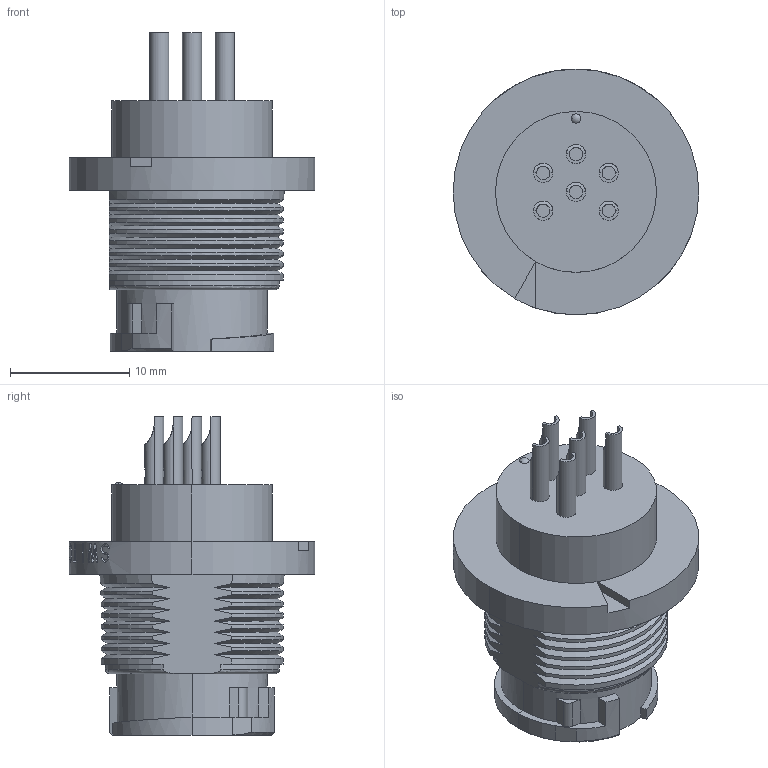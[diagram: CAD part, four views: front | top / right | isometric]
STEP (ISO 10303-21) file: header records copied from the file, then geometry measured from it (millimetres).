
FILE_DESCRIPTION (( 'STEP AP214' ), '1' );
FILE_NAME ('EN3P6FX.STEP', '2014-07-02T20:25:54', ( '' ), ( '' ), 'SwSTEP 2.0', 'SolidWorks 2014', '' );
FILE_SCHEMA (( 'AUTOMOTIVE_DESIGN' ));
Length unit declared in the file: inch
Products named in the file (1): EN3P6FX
Bounding box: 20.62 x 20.62 x 26.72 mm (x, y, z)
Volume: 3493 mm3; surface area: 2368.5 mm2
Topology: 1 solids, 1 shells, 445 faces, 1208 edges, 793 vertices
Faces by surface type: plane 303, cylinder 80, cone 53, torus 5, sphere 2, bspline 2
Entity records: 14725 total; most frequent: CARTESIAN_POINT 3794, ORIENTED_EDGE 2410, DIRECTION 2092, EDGE_CURVE 1205, VERTEX_POINT 792, LINE 708, VECTOR 708, AXIS2_PLACEMENT_3D 692
